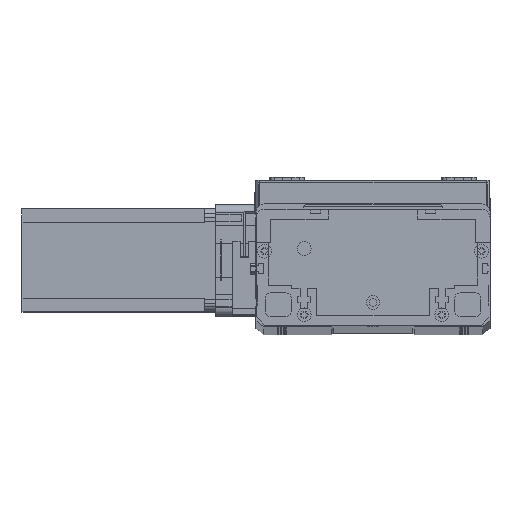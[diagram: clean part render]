
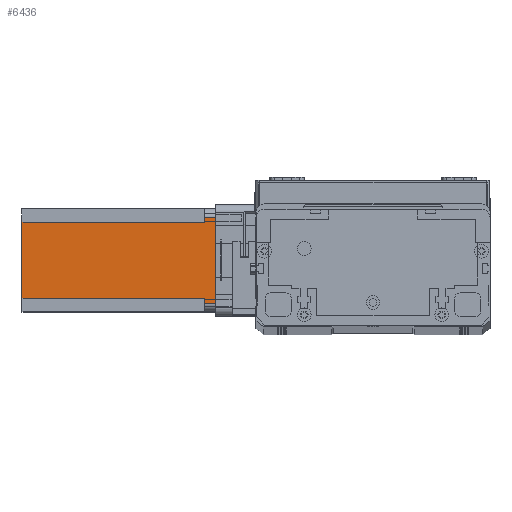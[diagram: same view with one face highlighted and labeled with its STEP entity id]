
A CAD part, top view. The second image highlights one B-rep face of the part: STEP entity #6436.
In plain terms, the highlighted planar face has unit normal (0, 0, 1) as drawn and (0, -1, 0) by its records, which use the part's own axes.
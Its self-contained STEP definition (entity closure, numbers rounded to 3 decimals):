
#464 = ORIENTED_EDGE ( 'NONE', *, *, #18223, .F. ) ;
#1001 = ORIENTED_EDGE ( 'NONE', *, *, #20305, .F. ) ;
#1184 = DIRECTION ( 'NONE',  ( 1., 0., 0. ) ) ;
#1474 = VECTOR ( 'NONE', #23598, 1000. ) ;
#1870 = CARTESIAN_POINT ( 'NONE',  ( 8., 0., -112.5 ) ) ;
#2104 = LINE ( 'NONE', #25356, #7773 ) ;
#2694 = DIRECTION ( 'NONE',  ( 0., 0., 1. ) ) ;
#3411 = CARTESIAN_POINT ( 'NONE',  ( 5., 0., -112.5 ) ) ;
#3424 = VERTEX_POINT ( 'NONE', #19412 ) ;
#3541 = ORIENTED_EDGE ( 'NONE', *, *, #15864, .T. ) ;
#3630 = VERTEX_POINT ( 'NONE', #21650 ) ;
#3867 = ORIENTED_EDGE ( 'NONE', *, *, #17512, .F. ) ;
#3974 = DIRECTION ( 'NONE',  ( 0., 0., 1. ) ) ;
#4793 = ORIENTED_EDGE ( 'NONE', *, *, #16975, .T. ) ;
#5532 = DIRECTION ( 'NONE',  ( 0., 0., -1. ) ) ;
#6436 = ADVANCED_FACE ( 'NONE', ( #17632 ), #12956, .T. ) ;
#7572 = VECTOR ( 'NONE', #5532, 1000. ) ;
#7773 = VECTOR ( 'NONE', #12853, 1000. ) ;
#8050 = CARTESIAN_POINT ( 'NONE',  ( 8., 0., -6.5 ) ) ;
#8099 = VECTOR ( 'NONE', #1184, 1000. ) ;
#8175 = LINE ( 'NONE', #1870, #24948 ) ;
#8576 = EDGE_LOOP ( 'NONE', ( #3541, #17022, #1001, #4793, #3867, #464, #26729, #26949 ) ) ;
#9333 = LINE ( 'NONE', #20486, #19921 ) ;
#10180 = AXIS2_PLACEMENT_3D ( 'NONE', #12847, #12840, #12817 ) ;
#10981 = CARTESIAN_POINT ( 'NONE',  ( 52., 0., -112.5 ) ) ;
#11099 = CARTESIAN_POINT ( 'NONE',  ( 55., 0., -6.5 ) ) ;
#12817 = DIRECTION ( 'NONE',  ( 0., 0., -1. ) ) ;
#12840 = DIRECTION ( 'NONE',  ( 0., -1., 0. ) ) ;
#12847 = CARTESIAN_POINT ( 'NONE',  ( 0., 0., -112.5 ) ) ;
#12853 = DIRECTION ( 'NONE',  ( 1., 0., 0. ) ) ;
#12956 = PLANE ( 'NONE',  #10180 ) ;
#13015 = CARTESIAN_POINT ( 'NONE',  ( 5., 0., -6.5 ) ) ;
#14401 = VERTEX_POINT ( 'NONE', #13015 ) ;
#15200 = LINE ( 'NONE', #3411, #7572 ) ;
#15864 = EDGE_CURVE ( 'NONE', #23957, #23145, #9333, .T. ) ;
#15890 = VERTEX_POINT ( 'NONE', #20760 ) ;
#16243 = EDGE_CURVE ( 'NONE', #23145, #3424, #21844, .T. ) ;
#16975 = EDGE_CURVE ( 'NONE', #24073, #14401, #15200, .T. ) ;
#17022 = ORIENTED_EDGE ( 'NONE', *, *, #16243, .T. ) ;
#17512 = EDGE_CURVE ( 'NONE', #3630, #14401, #21145, .T. ) ;
#17607 = CARTESIAN_POINT ( 'NONE',  ( 55., 0., -112.5 ) ) ;
#17632 = FACE_OUTER_BOUND ( 'NONE', #8576, .T. ) ;
#18223 = EDGE_CURVE ( 'NONE', #15890, #3630, #8175, .T. ) ;
#18444 = LINE ( 'NONE', #10981, #1474 ) ;
#19412 = CARTESIAN_POINT ( 'NONE',  ( 55., 0., 0. ) ) ;
#19422 = EDGE_CURVE ( 'NONE', #15890, #22373, #2104, .T. ) ;
#19921 = VECTOR ( 'NONE', #26759, 1000. ) ;
#20120 = EDGE_CURVE ( 'NONE', #23957, #22373, #18444, .T. ) ;
#20305 = EDGE_CURVE ( 'NONE', #24073, #3424, #24883, .T. ) ;
#20486 = CARTESIAN_POINT ( 'NONE',  ( 52., 0., -6.5 ) ) ;
#20499 = VECTOR ( 'NONE', #22811, 1000. ) ;
#20760 = CARTESIAN_POINT ( 'NONE',  ( 8., 0., -112.5 ) ) ;
#21145 = LINE ( 'NONE', #8050, #20499 ) ;
#21214 = VECTOR ( 'NONE', #2694, 1000. ) ;
#21650 = CARTESIAN_POINT ( 'NONE',  ( 8., 0., -6.5 ) ) ;
#21844 = LINE ( 'NONE', #17607, #21214 ) ;
#22276 = CARTESIAN_POINT ( 'NONE',  ( 0., 0., 0. ) ) ;
#22373 = VERTEX_POINT ( 'NONE', #23384 ) ;
#22811 = DIRECTION ( 'NONE',  ( -1., 0., 0. ) ) ;
#23145 = VERTEX_POINT ( 'NONE', #11099 ) ;
#23384 = CARTESIAN_POINT ( 'NONE',  ( 52., 0., -112.5 ) ) ;
#23598 = DIRECTION ( 'NONE',  ( 0., 0., -1. ) ) ;
#23951 = CARTESIAN_POINT ( 'NONE',  ( 52., 0., -6.5 ) ) ;
#23957 = VERTEX_POINT ( 'NONE', #23951 ) ;
#24073 = VERTEX_POINT ( 'NONE', #26387 ) ;
#24883 = LINE ( 'NONE', #22276, #8099 ) ;
#24948 = VECTOR ( 'NONE', #3974, 1000. ) ;
#25356 = CARTESIAN_POINT ( 'NONE',  ( 0., 0., -112.5 ) ) ;
#26387 = CARTESIAN_POINT ( 'NONE',  ( 5., 0., 0. ) ) ;
#26729 = ORIENTED_EDGE ( 'NONE', *, *, #19422, .T. ) ;
#26759 = DIRECTION ( 'NONE',  ( 1., 0., 0. ) ) ;
#26949 = ORIENTED_EDGE ( 'NONE', *, *, #20120, .F. ) ;
